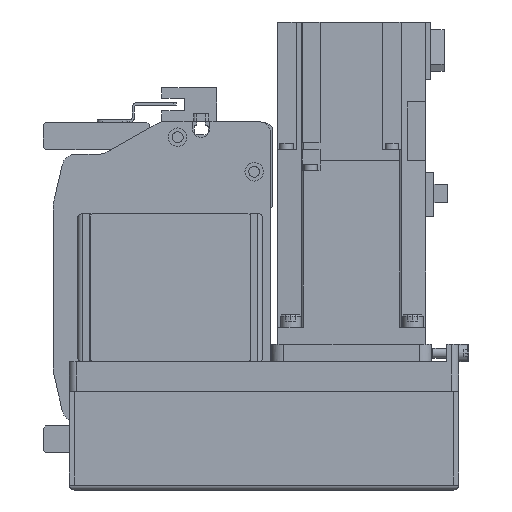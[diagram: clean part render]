
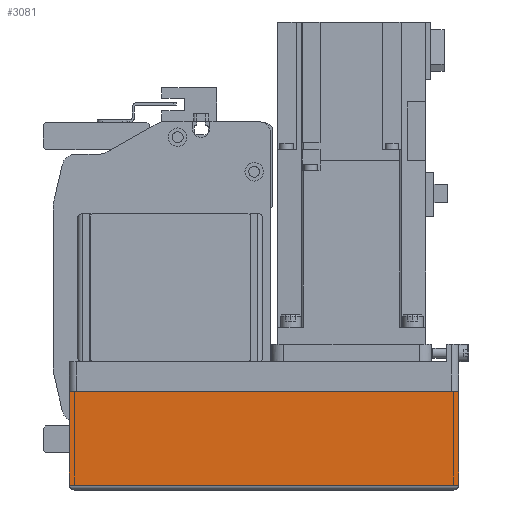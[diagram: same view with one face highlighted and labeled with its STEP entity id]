
A CAD part, left-side view. The second image highlights one B-rep face of the part: STEP entity #3081.
In plain terms, the highlighted planar face has unit normal (-1, 0, 0) as drawn and (0, 1, 0) by its records, which use the part's own axes.
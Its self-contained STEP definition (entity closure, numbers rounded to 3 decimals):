
#3081 = ADVANCED_FACE( '', ( #6321 ), #6322, .T. );
#6321 = FACE_OUTER_BOUND( '', #9515, .T. );
#6322 = PLANE( '', #9516 );
#9515 = EDGE_LOOP( '', ( #18229, #18230, #18231, #18232 ) );
#9516 = AXIS2_PLACEMENT_3D( '', #18233, #18234, #18235 );
#18229 = ORIENTED_EDGE( '', *, *, #19539, .F. );
#18230 = ORIENTED_EDGE( '', *, *, #19659, .F. );
#18231 = ORIENTED_EDGE( '', *, *, #18910, .T. );
#18232 = ORIENTED_EDGE( '', *, *, #19644, .T. );
#18233 = CARTESIAN_POINT( '', ( -158., 39., -50. ) );
#18234 = DIRECTION( '', ( 0., 1., 0. ) );
#18235 = DIRECTION( '', ( 0., 0., 1. ) );
#18910 = EDGE_CURVE( '', #22812, #22809, #22813, .T. );
#19539 = EDGE_CURVE( '', #22116, #23867, #23868, .T. );
#19644 = EDGE_CURVE( '', #22809, #23867, #24028, .T. );
#19659 = EDGE_CURVE( '', #22812, #22116, #24047, .T. );
#22116 = VERTEX_POINT( '', #27401 );
#22809 = VERTEX_POINT( '', #28325 );
#22812 = VERTEX_POINT( '', #28329 );
#22813 = LINE( '', #28330, #28331 );
#23867 = VERTEX_POINT( '', #29786 );
#23868 = LINE( '', #29787, #29788 );
#24028 = LINE( '', #30062, #30063 );
#24047 = LINE( '', #30098, #30099 );
#27401 = CARTESIAN_POINT( '', ( 0., 39., -50. ) );
#28325 = CARTESIAN_POINT( '', ( -158., 39., -12.1 ) );
#28329 = CARTESIAN_POINT( '', ( -158., 39., -50. ) );
#28330 = CARTESIAN_POINT( '', ( -158., 39., -50. ) );
#28331 = VECTOR( '', #34869, 1000. );
#29786 = CARTESIAN_POINT( '', ( 0., 39., -12.1 ) );
#29787 = CARTESIAN_POINT( '', ( 0., 39., -50. ) );
#29788 = VECTOR( '', #35721, 1000. );
#30062 = CARTESIAN_POINT( '', ( -158., 39., -12.1 ) );
#30063 = VECTOR( '', #35829, 1000. );
#30098 = CARTESIAN_POINT( '', ( -158., 39., -50. ) );
#30099 = VECTOR( '', #35847, 1000. );
#34869 = DIRECTION( '', ( 0., 0., 1. ) );
#35721 = DIRECTION( '', ( 0., 0., 1. ) );
#35829 = DIRECTION( '', ( 1., 0., 0. ) );
#35847 = DIRECTION( '', ( 1., 0., 0. ) );
